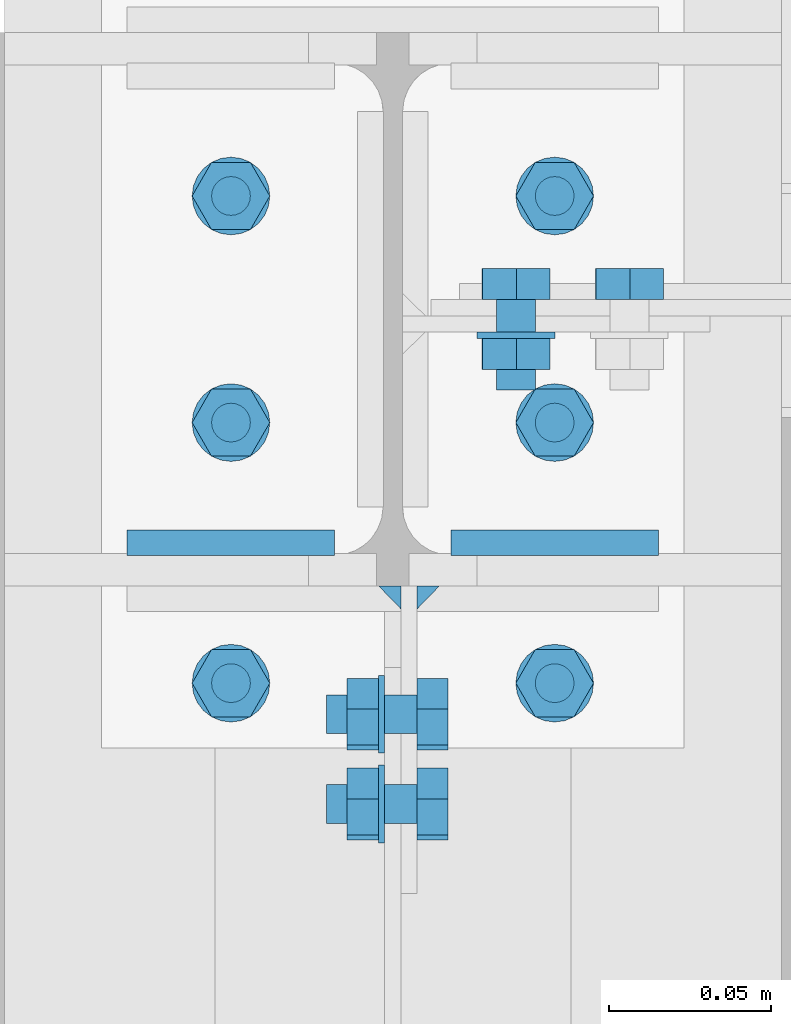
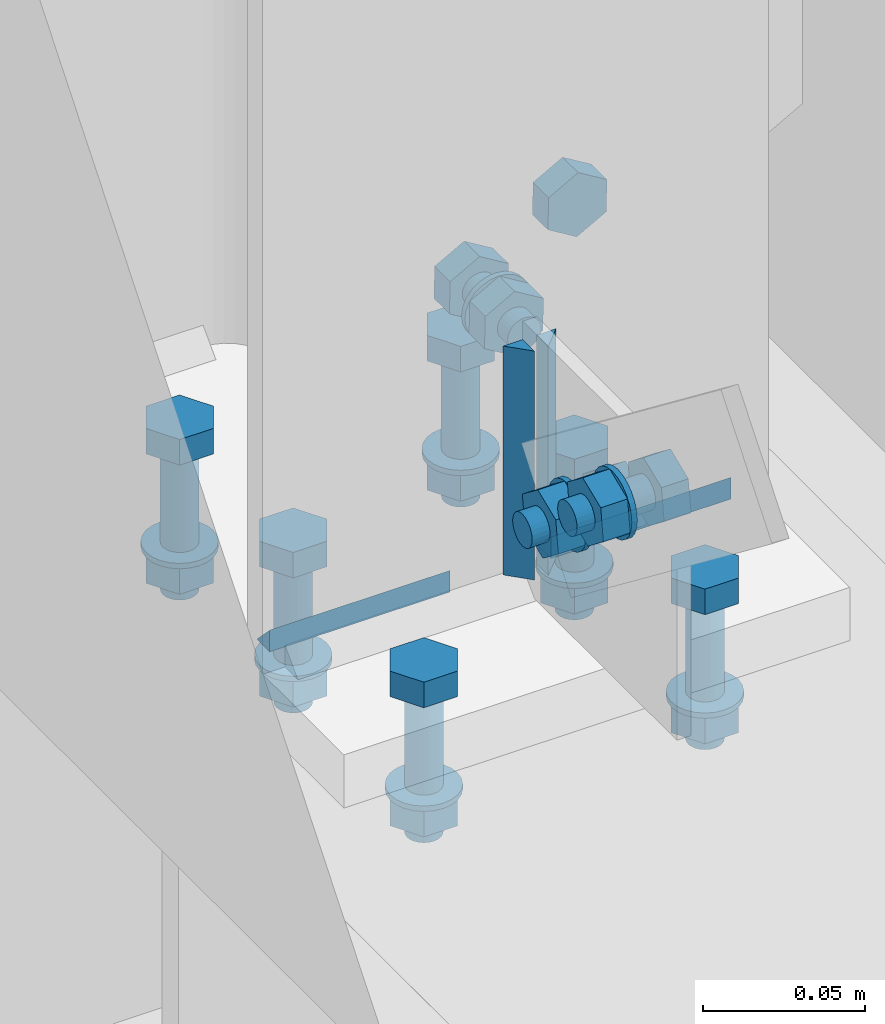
# One storey, part 40 of 66: 37 mechanical fasteners, 6 fasteners.
"""IFC4 building model written with IfcOpenShell, lengths in metres."""

from ifc_helpers import new_model, si_unit, frame, origin_with_axes, place, context, project, spatial, polyline, outline, extrude, type_object, element, save


model = new_model("IFC4")

# Units and contexts
model_context = context("Model", 3, precision=1e-05, world=origin_with_axes())
ifc_project = project(units=[si_unit("LENGTHUNIT", "METRE"), si_unit("AREAUNIT", "SQUARE_METRE"), si_unit("VOLUMEUNIT", "CUBIC_METRE"), si_unit("MASSUNIT", "GRAM", prefix="KILO"), si_unit("TIMEUNIT", "SECOND"), si_unit("PLANEANGLEUNIT", "RADIAN"), si_unit("SOLIDANGLEUNIT", "STERADIAN"), si_unit("THERMODYNAMICTEMPERATUREUNIT", "DEGREE_CELSIUS")], contexts=[model_context])

# Site, building, storey
placement_1 = place(None, origin_with_axes())
site = spatial("IfcSite", under=ifc_project, at=placement_1, Name="Italia", CompositionType="ELEMENT")
building = spatial("IfcBuilding", under=site, at=placement_1, Name="Uffici", CompositionType="ELEMENT")
storey_placement = place(None, frame((0.0, 0.0, 3.299999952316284), z_axis=(0.0, 0.0, 1.0), x_axis=(1.0, 0.0, 0.0)))
storey = spatial("IfcBuildingStorey", under=building, at=storey_placement, Name="Storey 1", CompositionType="ELEMENT", Elevation=3.299999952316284)

# Mechanical fasteners
mechanical_fastener_type_1 = type_object("IfcMechanicalFastenerType", Name="Collegamento 0106_0201", PredefinedType="BOLT")
placement_2 = place(placement_1, origin_with_axes())
mechanical_fastener_1_placement = place(placement_2, origin_with_axes())
element("IfcMechanicalFastener", 1, at=mechanical_fastener_1_placement, inside=storey, type_object=mechanical_fastener_type_1, Name="Collegamento 0106_0201", NominalDiameter=0.0119999, context=model_context, shape_type="SweptSolid", body=[
    extrude(outline(polyline([(0.0, 0.0), (0.00950527, -0.0073247), (0.0206013, -0.00275517), (0.022192, 0.00913882), (0.0126867, 0.0164635), (0.00159073, 0.011894), (0.0, 0.0)])), frame((0.0075, 4.6783, 3.36937), z_axis=(1.0, 0.0, 0.0), x_axis=(0.0, 1.0, 0.0)), (0.0, 0.0, 1.0), 0.0096),
])
mechanical_fastener_type_2 = type_object("IfcMechanicalFastenerType", Name="Collegamento 0106_0201", PredefinedType="BOLT")
mechanical_fastener_2_placement = place(placement_2, origin_with_axes())
element("IfcMechanicalFastener", 2, at=mechanical_fastener_2_placement, inside=storey, type_object=mechanical_fastener_type_2, Name="Collegamento 0106_0201", NominalDiameter=0.012, context=model_context, shape_type="SweptSolid", body=[
    extrude(outline(polyline([(0.0, 0.0), (-0.000204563, -0.00155282), (-0.000803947, -0.00300002), (-0.00175762, -0.00424266), (-0.00300026, -0.00519609), (-0.00444698, -0.00579548), (-0.00600004, -0.00600004), (-0.0075531, -0.00579548), (-0.00899982, -0.00519609), (-0.0102425, -0.00424266), (-0.0111961, -0.00300002), (-0.0117955, -0.00155282), (-0.0120001, 0.0), (-0.0117955, 0.00155282), (-0.0111961, 0.00300002), (-0.0102425, 0.00424266), (-0.00899982, 0.00519609), (-0.0075531, 0.00579548), (-0.00600004, 0.00600004), (-0.00444698, 0.00579548), (-0.00300026, 0.00519609), (-0.00175762, 0.00424266), (-0.000803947, 0.00300002), (-0.000204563, 0.00155282), (0.0, 0.0)])), frame((-0.0205, 4.69539, 3.37394), z_axis=(1.0, 0.0, 0.0), x_axis=(0.0, 1.0, 0.0)), (0.0, 0.0, 1.0), 0.028),
])
mechanical_fastener_type_3 = type_object("IfcMechanicalFastenerType", Name="Collegamento 0106_0201", PredefinedType="BOLT")
mechanical_fastener_3_placement = place(placement_2, origin_with_axes())
element("IfcMechanicalFastener", 3, at=mechanical_fastener_3_placement, inside=storey, type_object=mechanical_fastener_type_3, Name="Collegamento 0106_0201", NominalDiameter=0.0119999, context=model_context, shape_type="SweptSolid", body=[
    extrude(outline(polyline([(0.0, 0.0), (0.00950527, -0.0073247), (0.0206013, -0.00275517), (0.022192, 0.00913882), (0.0126867, 0.0164635), (0.00159073, 0.011894), (0.0, 0.0)])), frame((-0.0141, 4.6783, 3.36937), z_axis=(1.0, 0.0, 0.0), x_axis=(0.0, 1.0, 0.0)), (0.0, 0.0, 1.0), 0.0096),
])
mechanical_fastener_type_4 = type_object("IfcMechanicalFastenerType", Name="Collegamento 0106_0201", PredefinedType="BOLT")
mechanical_fastener_4_placement = place(placement_2, origin_with_axes())
element("IfcMechanicalFastener", 4, at=mechanical_fastener_4_placement, inside=storey, type_object=mechanical_fastener_type_4, Name="Collegamento 0106_0201", NominalDiameter=0.024, context=model_context, shape_type="SweptSolid", body=[
    extrude(outline(polyline([(0.0, 0.0), (-0.000409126, -0.00310588), (-0.00160789, -0.00600004), (-0.00351477, -0.00848532), (-0.00600004, -0.0103922), (-0.00889444, -0.0115912), (-0.0120001, -0.0120001), (-0.0151057, -0.0115912), (-0.0180001, -0.0103922), (-0.0204854, -0.00848532), (-0.0223923, -0.00600004), (-0.023591, -0.00310588), (-0.0240002, 0.0), (-0.023591, 0.00310588), (-0.0223923, 0.00600004), (-0.0204854, 0.00848532), (-0.0180001, 0.0103922), (-0.0151057, 0.0115912), (-0.0120001, 0.0120001), (-0.00889444, 0.0115912), (-0.00600004, 0.0103922), (-0.00351477, 0.00848532), (-0.00160789, 0.00600004), (-0.000409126, 0.00310588), (0.0, 0.0)])), frame((-0.0045, 4.7014, 3.37394), z_axis=(1.0, 0.0, 0.0), x_axis=(0.0, 1.0, 0.0)), (0.0, 0.0, 1.0), 0.002),
])
mechanical_fastener_type_5 = type_object("IfcMechanicalFastenerType", Name="Collegamento 0106_0201", PredefinedType="BOLT")
mechanical_fastener_5_placement = place(placement_2, origin_with_axes())
element("IfcMechanicalFastener", 5, at=mechanical_fastener_5_placement, inside=storey, type_object=mechanical_fastener_type_5, Name="Collegamento 0106_0201", NominalDiameter=0.0119999, context=model_context, shape_type="SweptSolid", body=[
    extrude(outline(polyline([(0.0, 0.0), (0.00950527, -0.0073247), (0.0206013, -0.00275517), (0.022192, 0.00913882), (0.0126867, 0.0164635), (0.00159073, 0.011894), (0.0, 0.0)])), frame((0.0075, 4.65058, 3.39073), z_axis=(1.0, 0.0, 0.0), x_axis=(0.0, 1.0, 0.0)), (0.0, 0.0, 1.0), 0.0096),
])
mechanical_fastener_type_6 = type_object("IfcMechanicalFastenerType", Name="Collegamento 0106_0201", PredefinedType="BOLT")
mechanical_fastener_6_placement = place(placement_2, origin_with_axes())
element("IfcMechanicalFastener", 6, at=mechanical_fastener_6_placement, inside=storey, type_object=mechanical_fastener_type_6, Name="Collegamento 0106_0201", NominalDiameter=0.012, context=model_context, shape_type="SweptSolid", body=[
    extrude(outline(polyline([(0.0, 0.0), (-0.000204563, -0.00155282), (-0.000803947, -0.00300002), (-0.00175762, -0.00424266), (-0.00300026, -0.00519609), (-0.00444698, -0.00579548), (-0.00600004, -0.00600004), (-0.0075531, -0.00579548), (-0.00899982, -0.00519609), (-0.0102425, -0.00424266), (-0.0111961, -0.00300002), (-0.0117955, -0.00155282), (-0.0120001, 0.0), (-0.0117955, 0.00155282), (-0.0111961, 0.00300002), (-0.0102425, 0.00424266), (-0.00899982, 0.00519609), (-0.0075531, 0.00579548), (-0.00600004, 0.00600004), (-0.00444698, 0.00579548), (-0.00300026, 0.00519609), (-0.00175762, 0.00424266), (-0.000803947, 0.00300002), (-0.000204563, 0.00155282), (0.0, 0.0)])), frame((-0.0205, 4.66767, 3.3953), z_axis=(1.0, 0.0, 0.0), x_axis=(0.0, 1.0, 0.0)), (0.0, 0.0, 1.0), 0.028),
])
mechanical_fastener_type_7 = type_object("IfcMechanicalFastenerType", Name="Collegamento 0106_0201", PredefinedType="BOLT")
mechanical_fastener_7_placement = place(placement_2, origin_with_axes())
element("IfcMechanicalFastener", 7, at=mechanical_fastener_7_placement, inside=storey, type_object=mechanical_fastener_type_7, Name="Collegamento 0106_0201", NominalDiameter=0.0119999, context=model_context, shape_type="SweptSolid", body=[
    extrude(outline(polyline([(0.0, 0.0), (0.00950527, -0.0073247), (0.0206013, -0.00275517), (0.022192, 0.00913882), (0.0126867, 0.0164635), (0.00159073, 0.011894), (0.0, 0.0)])), frame((-0.0141, 4.65058, 3.39073), z_axis=(1.0, 0.0, 0.0), x_axis=(0.0, 1.0, 0.0)), (0.0, 0.0, 1.0), 0.0096),
])
mechanical_fastener_type_8 = type_object("IfcMechanicalFastenerType", Name="Collegamento 0106_0201", PredefinedType="BOLT")
mechanical_fastener_8_placement = place(placement_2, origin_with_axes())
element("IfcMechanicalFastener", 8, at=mechanical_fastener_8_placement, inside=storey, type_object=mechanical_fastener_type_8, Name="Collegamento 0106_0201", NominalDiameter=0.024, context=model_context, shape_type="SweptSolid", body=[
    extrude(outline(polyline([(0.0, 0.0), (-0.000409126, -0.00310588), (-0.00160789, -0.00600004), (-0.00351477, -0.00848532), (-0.00600004, -0.0103922), (-0.00889444, -0.0115912), (-0.0120001, -0.0120001), (-0.0151057, -0.0115912), (-0.0180001, -0.0103922), (-0.0204854, -0.00848532), (-0.0223923, -0.00600004), (-0.023591, -0.00310588), (-0.0240002, 0.0), (-0.023591, 0.00310588), (-0.0223923, 0.00600004), (-0.0204854, 0.00848532), (-0.0180001, 0.0103922), (-0.0151057, 0.0115912), (-0.0120001, 0.0120001), (-0.00889444, 0.0115912), (-0.00600004, 0.0103922), (-0.00351477, 0.00848532), (-0.00160789, 0.00600004), (-0.000409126, 0.00310588), (0.0, 0.0)])), frame((-0.0045, 4.67367, 3.3953), z_axis=(1.0, 0.0, 0.0), x_axis=(0.0, 1.0, 0.0)), (0.0, 0.0, 1.0), 0.002),
])

# Fasteners
fastener_type_1 = type_object("IfcFastenerType", Name="Collegamento 0106_0201", PredefinedType="WELD")
fastener_1_placement = place(placement_2, origin_with_axes())
element("IfcFastener", 9, at=fastener_1_placement, inside=storey, type_object=fastener_type_1, Name="Collegamento 0106_0201", context=model_context, shape_type="SweptSolid", body=[
    extrude(outline(polyline([(0.0, 0.0), (-0.00717354, 0.00695816), (0.0, 0.00695816), (0.0, 0.0)])), frame((-0.00440816, 4.72905, 3.41347), z_axis=(0.0, 0.0, -1.0), x_axis=(0.0, 1.0, 0.0)), (0.0, 0.0, 1.0), 0.0861001),
])
fastener_type_2 = type_object("IfcFastenerType", Name="Collegamento 0106_0201", PredefinedType="WELD")
fastener_2_placement = place(placement_2, origin_with_axes())
element("IfcFastener", 10, at=fastener_2_placement, inside=storey, type_object=fastener_type_2, Name="Collegamento 0106_0201", context=model_context, shape_type="SweptSolid", body=[
    extrude(outline(polyline([(0.0, 0.0), (-0.00717354, 0.00695815), (0.0, 0.00695815), (0.0, 0.0)])), frame((0.0144082, 4.72905, 3.32737), z_axis=(0.0, 0.0, 1.0), x_axis=(0.0, 1.0, 0.0)), (0.0, 0.0, 1.0), 0.0861001),
])
fastener_type_3 = type_object("IfcFastenerType", Name="Collegamento 0106_0206", PredefinedType="WELD")
fastener_3_placement = place(placement_2, origin_with_axes())
element("IfcFastener", 11, at=fastener_3_placement, inside=storey, type_object=fastener_type_3, Name="Collegamento 0106_0206", context=model_context, shape_type="SweptSolid", body=[
    extrude(outline(polyline([(0.0, 0.0), (0.00792837, 0.00817347), (0.00792837, 0.0), (0.0, 0.0)])), frame((0.08205, 4.74638, 3.31995), z_axis=(-1.0, 0.0, 0.0), x_axis=(0.0, -1.0, 0.0)), (0.0, 0.0, 1.0), 0.0641),
])
fastener_type_4 = type_object("IfcFastenerType", Name="Collegamento 0106_0206", PredefinedType="WELD")
fastener_4_placement = place(placement_2, origin_with_axes())
element("IfcFastener", 12, at=fastener_4_placement, inside=storey, type_object=fastener_type_4, Name="Collegamento 0106_0206", context=model_context, shape_type="SweptSolid", body=[
    extrude(outline(polyline([(0.0, 0.0), (0.00792837, 0.00817347), (0.00792837, 0.0), (0.0, 0.0)])), frame((-0.01795, 4.74638, 3.31995), z_axis=(-1.0, 0.0, 0.0), x_axis=(0.0, -1.0, 0.0)), (0.0, 0.0, 1.0), 0.0641),
])
fastener_type_5 = type_object("IfcFastenerType", Name="Collegamento 0106_0206", PredefinedType="WELD")
fastener_5_placement = place(placement_2, origin_with_axes())
element("IfcFastener", 13, at=fastener_5_placement, inside=storey, type_object=fastener_type_5, Name="Collegamento 0106_0206", context=model_context, shape_type="SweptSolid", body=[
    extrude(outline(polyline([(0.0, 0.0), (0.00792837, 0.00817347), (0.00792837, 0.0), (0.0, 0.0)])), frame((0.08205, 4.74638, 3.31995), z_axis=(-1.0, 0.0, 0.0), x_axis=(0.0, -1.0, 0.0)), (0.0, 0.0, 1.0), 0.0641),
])
fastener_type_6 = type_object("IfcFastenerType", Name="Collegamento 0106_0206", PredefinedType="WELD")
fastener_6_placement = place(placement_2, origin_with_axes())
element("IfcFastener", 14, at=fastener_6_placement, inside=storey, type_object=fastener_type_6, Name="Collegamento 0106_0206", context=model_context, shape_type="SweptSolid", body=[
    extrude(outline(polyline([(0.0, 0.0), (0.00792837, 0.00817347), (0.00792837, 0.0), (0.0, 0.0)])), frame((-0.01795, 4.74638, 3.31995), z_axis=(-1.0, 0.0, 0.0), x_axis=(0.0, -1.0, 0.0)), (0.0, 0.0, 1.0), 0.0641),
])

# Mechanical fasteners
mechanical_fastener_type_9 = type_object("IfcMechanicalFastenerType", Name="Collegamento 0106_0206", PredefinedType="BOLT")
mechanical_fastener_9_placement = place(placement_2, origin_with_axes())
element("IfcMechanicalFastener", 15, at=mechanical_fastener_9_placement, inside=storey, type_object=mechanical_fastener_type_9, Name="Collegamento 0106_0206", NominalDiameter=0.0119999, context=model_context, shape_type="SweptSolid", body=[
    extrude(outline(polyline([(0.0, 0.0), (0.0, 0.012), (0.0103927, 0.018), (0.0207849, 0.012), (0.0207849, 0.0), (0.0103927, -0.006), (0.0, 0.0)])), frame((-0.044, 4.76911, 3.32), z_axis=(0.0, 0.0, 1.0), x_axis=(0.0, 1.0, 0.0)), (0.0, 0.0, 1.0), 0.00959992),
])
mechanical_fastener_type_10 = type_object("IfcMechanicalFastenerType", Name="Collegamento 0106_0206", PredefinedType="BOLT")
mechanical_fastener_10_placement = place(placement_2, origin_with_axes())
element("IfcMechanicalFastener", 16, at=mechanical_fastener_10_placement, inside=storey, type_object=mechanical_fastener_type_10, Name="Collegamento 0106_0206", NominalDiameter=0.012, context=model_context, shape_type="SweptSolid", body=[
    extrude(outline(polyline([(0.0, 0.0), (-0.000204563, -0.00155291), (-0.000803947, -0.003), (-0.00175762, -0.00424264), (-0.00300026, -0.00519615), (-0.00444698, -0.00579556), (-0.00600004, -0.006), (-0.0075531, -0.00579555), (-0.00899982, -0.00519615), (-0.0102425, -0.00424264), (-0.0111961, -0.003), (-0.0117955, -0.00155291), (-0.0120001, 0.0), (-0.0117955, 0.00155291), (-0.0111961, 0.003), (-0.0102425, 0.00424264), (-0.00899982, 0.00519615), (-0.0075531, 0.00579556), (-0.00600004, 0.006), (-0.00444698, 0.00579556), (-0.00300026, 0.00519615), (-0.00175762, 0.00424264), (-0.000803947, 0.003), (-0.000204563, 0.00155291), (0.0, 0.0)])), frame((-0.05, 4.7855, 3.265), z_axis=(0.0, 0.0, 1.0), x_axis=(0.0, 1.0, 0.0)), (0.0, 0.0, 1.0), 0.0550001),
])
mechanical_fastener_type_11 = type_object("IfcMechanicalFastenerType", Name="Collegamento 0106_0206", PredefinedType="BOLT")
mechanical_fastener_11_placement = place(placement_2, origin_with_axes())
element("IfcMechanicalFastener", 17, at=mechanical_fastener_11_placement, inside=storey, type_object=mechanical_fastener_type_11, Name="Collegamento 0106_0206", NominalDiameter=0.0119999, context=model_context, shape_type="SweptSolid", body=[
    extrude(outline(polyline([(0.0, 0.0), (0.0, 0.012), (0.0103927, 0.018), (0.0207849, 0.012), (0.0207849, 0.0), (0.0103927, -0.006), (0.0, 0.0)])), frame((-0.044, 4.76911, 3.2714), z_axis=(0.0, 0.0, 1.0), x_axis=(0.0, 1.0, 0.0)), (0.0, 0.0, 1.0), 0.00959992),
])
mechanical_fastener_type_12 = type_object("IfcMechanicalFastenerType", Name="Collegamento 0106_0206", PredefinedType="BOLT")
mechanical_fastener_12_placement = place(placement_2, origin_with_axes())
element("IfcMechanicalFastener", 18, at=mechanical_fastener_12_placement, inside=storey, type_object=mechanical_fastener_type_12, Name="Collegamento 0106_0206", NominalDiameter=0.024, context=model_context, shape_type="SweptSolid", body=[
    extrude(outline(polyline([(0.0, 0.0), (-0.000409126, -0.00310583), (-0.00160789, -0.006), (-0.00351477, -0.00848528), (-0.00600004, -0.0103923), (-0.00889444, -0.0115911), (-0.0120001, -0.012), (-0.0151057, -0.0115911), (-0.0180001, -0.0103923), (-0.0204854, -0.00848528), (-0.0223923, -0.006), (-0.023591, -0.00310583), (-0.0240002, 0.0), (-0.023591, 0.00310583), (-0.0223923, 0.006), (-0.0204854, 0.00848528), (-0.0180001, 0.0103923), (-0.0151057, 0.0115911), (-0.0120001, 0.012), (-0.00889444, 0.0115911), (-0.00600004, 0.0103923), (-0.00351477, 0.00848528), (-0.00160789, 0.006), (-0.000409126, 0.00310583), (0.0, 0.0)])), frame((-0.05, 4.7915, 3.281), z_axis=(0.0, 0.0, 1.0), x_axis=(0.0, 1.0, 0.0)), (0.0, 0.0, 1.0), 0.00200009),
])
mechanical_fastener_type_13 = type_object("IfcMechanicalFastenerType", Name="Collegamento 0106_0206", PredefinedType="BOLT")
mechanical_fastener_13_placement = place(placement_2, origin_with_axes())
element("IfcMechanicalFastener", 19, at=mechanical_fastener_13_placement, inside=storey, type_object=mechanical_fastener_type_13, Name="Collegamento 0106_0206", NominalDiameter=0.0119999, context=model_context, shape_type="SweptSolid", body=[
    extrude(outline(polyline([(0.0, 0.0), (0.0, 0.012), (0.0103927, 0.018), (0.0207849, 0.012), (0.0207849, 0.0), (0.0103927, -0.006), (0.0, 0.0)])), frame((0.056, 4.76911, 3.32), z_axis=(0.0, 0.0, 1.0), x_axis=(0.0, 1.0, 0.0)), (0.0, 0.0, 1.0), 0.00959992),
])
mechanical_fastener_type_14 = type_object("IfcMechanicalFastenerType", Name="Collegamento 0106_0206", PredefinedType="BOLT")
mechanical_fastener_14_placement = place(placement_2, origin_with_axes())
element("IfcMechanicalFastener", 20, at=mechanical_fastener_14_placement, inside=storey, type_object=mechanical_fastener_type_14, Name="Collegamento 0106_0206", NominalDiameter=0.012, context=model_context, shape_type="SweptSolid", body=[
    extrude(outline(polyline([(0.0, 0.0), (-0.000204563, -0.00155291), (-0.000803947, -0.003), (-0.00175762, -0.00424264), (-0.00300026, -0.00519615), (-0.00444698, -0.00579556), (-0.00600004, -0.006), (-0.0075531, -0.00579555), (-0.00899982, -0.00519615), (-0.0102425, -0.00424264), (-0.0111961, -0.003), (-0.0117955, -0.00155291), (-0.0120001, 0.0), (-0.0117955, 0.00155291), (-0.0111961, 0.003), (-0.0102425, 0.00424264), (-0.00899982, 0.00519615), (-0.0075531, 0.00579556), (-0.00600004, 0.006), (-0.00444698, 0.00579556), (-0.00300026, 0.00519615), (-0.00175762, 0.00424264), (-0.000803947, 0.003), (-0.000204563, 0.00155291), (0.0, 0.0)])), frame((0.05, 4.7855, 3.265), z_axis=(0.0, 0.0, 1.0), x_axis=(0.0, 1.0, 0.0)), (0.0, 0.0, 1.0), 0.0550001),
])
mechanical_fastener_type_15 = type_object("IfcMechanicalFastenerType", Name="Collegamento 0106_0206", PredefinedType="BOLT")
mechanical_fastener_15_placement = place(placement_2, origin_with_axes())
element("IfcMechanicalFastener", 21, at=mechanical_fastener_15_placement, inside=storey, type_object=mechanical_fastener_type_15, Name="Collegamento 0106_0206", NominalDiameter=0.0119999, context=model_context, shape_type="SweptSolid", body=[
    extrude(outline(polyline([(0.0, 0.0), (0.0, 0.012), (0.0103927, 0.018), (0.0207849, 0.012), (0.0207849, 0.0), (0.0103927, -0.006), (0.0, 0.0)])), frame((0.056, 4.76911, 3.2714), z_axis=(0.0, 0.0, 1.0), x_axis=(0.0, 1.0, 0.0)), (0.0, 0.0, 1.0), 0.00959992),
])
mechanical_fastener_type_16 = type_object("IfcMechanicalFastenerType", Name="Collegamento 0106_0206", PredefinedType="BOLT")
mechanical_fastener_16_placement = place(placement_2, origin_with_axes())
element("IfcMechanicalFastener", 22, at=mechanical_fastener_16_placement, inside=storey, type_object=mechanical_fastener_type_16, Name="Collegamento 0106_0206", NominalDiameter=0.024, context=model_context, shape_type="SweptSolid", body=[
    extrude(outline(polyline([(0.0, 0.0), (-0.000409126, -0.00310583), (-0.00160789, -0.006), (-0.00351477, -0.00848528), (-0.00600004, -0.0103923), (-0.00889444, -0.0115911), (-0.0120001, -0.012), (-0.0151057, -0.0115911), (-0.0180001, -0.0103923), (-0.0204854, -0.00848528), (-0.0223923, -0.006), (-0.023591, -0.00310583), (-0.0240002, 0.0), (-0.023591, 0.00310583), (-0.0223923, 0.006), (-0.0204854, 0.00848528), (-0.0180001, 0.0103923), (-0.0151057, 0.0115911), (-0.0120001, 0.012), (-0.00889444, 0.0115911), (-0.00600004, 0.0103923), (-0.00351477, 0.00848528), (-0.00160789, 0.006), (-0.000409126, 0.00310583), (0.0, 0.0)])), frame((0.05, 4.7915, 3.281), z_axis=(0.0, 0.0, 1.0), x_axis=(0.0, 1.0, 0.0)), (0.0, 0.0, 1.0), 0.00200009),
])
mechanical_fastener_type_17 = type_object("IfcMechanicalFastenerType", Name="Collegamento 0106_0206", PredefinedType="BOLT")
mechanical_fastener_17_placement = place(placement_2, origin_with_axes())
element("IfcMechanicalFastener", 23, at=mechanical_fastener_17_placement, inside=storey, type_object=mechanical_fastener_type_17, Name="Collegamento 0106_0206", NominalDiameter=0.0119999, context=model_context, shape_type="SweptSolid", body=[
    extrude(outline(polyline([(0.0, 0.0), (0.0, 0.012), (0.0103922, 0.018), (0.0207849, 0.012), (0.0207849, 0.0), (0.0103922, -0.006), (0.0, 0.0)])), frame((-0.044, 4.83911, 3.32), z_axis=(0.0, 0.0, 1.0), x_axis=(0.0, 1.0, 0.0)), (0.0, 0.0, 1.0), 0.00959992),
])
mechanical_fastener_type_18 = type_object("IfcMechanicalFastenerType", Name="Collegamento 0106_0206", PredefinedType="BOLT")
mechanical_fastener_18_placement = place(placement_2, origin_with_axes())
element("IfcMechanicalFastener", 24, at=mechanical_fastener_18_placement, inside=storey, type_object=mechanical_fastener_type_18, Name="Collegamento 0106_0206", NominalDiameter=0.012, context=model_context, shape_type="SweptSolid", body=[
    extrude(outline(polyline([(0.0, 0.0), (-0.000204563, -0.00155291), (-0.000803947, -0.003), (-0.00175762, -0.00424264), (-0.00300026, -0.00519615), (-0.00444698, -0.00579556), (-0.00600004, -0.006), (-0.0075531, -0.00579555), (-0.00899982, -0.00519615), (-0.0102425, -0.00424264), (-0.0111961, -0.003), (-0.0117955, -0.00155291), (-0.0120001, 0.0), (-0.0117955, 0.00155291), (-0.0111961, 0.003), (-0.0102425, 0.00424264), (-0.00899982, 0.00519615), (-0.0075531, 0.00579556), (-0.00600004, 0.006), (-0.00444698, 0.00579556), (-0.00300026, 0.00519615), (-0.00175762, 0.00424264), (-0.000803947, 0.003), (-0.000204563, 0.00155291), (0.0, 0.0)])), frame((-0.05, 4.8555, 3.265), z_axis=(0.0, 0.0, 1.0), x_axis=(0.0, 1.0, 0.0)), (0.0, 0.0, 1.0), 0.0550001),
])
mechanical_fastener_type_19 = type_object("IfcMechanicalFastenerType", Name="Collegamento 0106_0206", PredefinedType="BOLT")
mechanical_fastener_19_placement = place(placement_2, origin_with_axes())
element("IfcMechanicalFastener", 25, at=mechanical_fastener_19_placement, inside=storey, type_object=mechanical_fastener_type_19, Name="Collegamento 0106_0206", NominalDiameter=0.0119999, context=model_context, shape_type="SweptSolid", body=[
    extrude(outline(polyline([(0.0, 0.0), (0.0, 0.012), (0.0103922, 0.018), (0.0207849, 0.012), (0.0207849, 0.0), (0.0103922, -0.006), (0.0, 0.0)])), frame((-0.044, 4.83911, 3.2714), z_axis=(0.0, 0.0, 1.0), x_axis=(0.0, 1.0, 0.0)), (0.0, 0.0, 1.0), 0.00959992),
])
mechanical_fastener_type_20 = type_object("IfcMechanicalFastenerType", Name="Collegamento 0106_0206", PredefinedType="BOLT")
mechanical_fastener_20_placement = place(placement_2, origin_with_axes())
element("IfcMechanicalFastener", 26, at=mechanical_fastener_20_placement, inside=storey, type_object=mechanical_fastener_type_20, Name="Collegamento 0106_0206", NominalDiameter=0.024, context=model_context, shape_type="SweptSolid", body=[
    extrude(outline(polyline([(0.0, 0.0), (-0.000409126, -0.00310583), (-0.00160789, -0.006), (-0.00351477, -0.00848528), (-0.00600004, -0.0103923), (-0.00889444, -0.0115911), (-0.0120001, -0.012), (-0.0151057, -0.0115911), (-0.0180001, -0.0103923), (-0.0204854, -0.00848528), (-0.0223923, -0.006), (-0.023591, -0.00310583), (-0.0240002, 0.0), (-0.023591, 0.00310583), (-0.0223923, 0.006), (-0.0204854, 0.00848528), (-0.0180001, 0.0103923), (-0.0151057, 0.0115911), (-0.0120001, 0.012), (-0.00889444, 0.0115911), (-0.00600004, 0.0103923), (-0.00351477, 0.00848528), (-0.00160789, 0.006), (-0.000409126, 0.00310583), (0.0, 0.0)])), frame((-0.05, 4.8615, 3.281), z_axis=(0.0, 0.0, 1.0), x_axis=(0.0, 1.0, 0.0)), (0.0, 0.0, 1.0), 0.00200009),
])
mechanical_fastener_type_21 = type_object("IfcMechanicalFastenerType", Name="Collegamento 0106_0206", PredefinedType="BOLT")
mechanical_fastener_21_placement = place(placement_2, origin_with_axes())
element("IfcMechanicalFastener", 27, at=mechanical_fastener_21_placement, inside=storey, type_object=mechanical_fastener_type_21, Name="Collegamento 0106_0206", NominalDiameter=0.0119999, context=model_context, shape_type="SweptSolid", body=[
    extrude(outline(polyline([(0.0, 0.0), (0.0, 0.012), (0.0103922, 0.018), (0.0207849, 0.012), (0.0207849, 0.0), (0.0103922, -0.006), (0.0, 0.0)])), frame((0.056, 4.83911, 3.32), z_axis=(0.0, 0.0, 1.0), x_axis=(0.0, 1.0, 0.0)), (0.0, 0.0, 1.0), 0.00959992),
])
mechanical_fastener_type_22 = type_object("IfcMechanicalFastenerType", Name="Collegamento 0106_0206", PredefinedType="BOLT")
mechanical_fastener_22_placement = place(placement_2, origin_with_axes())
element("IfcMechanicalFastener", 28, at=mechanical_fastener_22_placement, inside=storey, type_object=mechanical_fastener_type_22, Name="Collegamento 0106_0206", NominalDiameter=0.012, context=model_context, shape_type="SweptSolid", body=[
    extrude(outline(polyline([(0.0, 0.0), (-0.000204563, -0.00155291), (-0.000803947, -0.003), (-0.00175762, -0.00424264), (-0.00300026, -0.00519615), (-0.00444698, -0.00579556), (-0.00600004, -0.006), (-0.0075531, -0.00579555), (-0.00899982, -0.00519615), (-0.0102425, -0.00424264), (-0.0111961, -0.003), (-0.0117955, -0.00155291), (-0.0120001, 0.0), (-0.0117955, 0.00155291), (-0.0111961, 0.003), (-0.0102425, 0.00424264), (-0.00899982, 0.00519615), (-0.0075531, 0.00579556), (-0.00600004, 0.006), (-0.00444698, 0.00579556), (-0.00300026, 0.00519615), (-0.00175762, 0.00424264), (-0.000803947, 0.003), (-0.000204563, 0.00155291), (0.0, 0.0)])), frame((0.05, 4.8555, 3.265), z_axis=(0.0, 0.0, 1.0), x_axis=(0.0, 1.0, 0.0)), (0.0, 0.0, 1.0), 0.0550001),
])
mechanical_fastener_type_23 = type_object("IfcMechanicalFastenerType", Name="Collegamento 0106_0206", PredefinedType="BOLT")
mechanical_fastener_23_placement = place(placement_2, origin_with_axes())
element("IfcMechanicalFastener", 29, at=mechanical_fastener_23_placement, inside=storey, type_object=mechanical_fastener_type_23, Name="Collegamento 0106_0206", NominalDiameter=0.0119999, context=model_context, shape_type="SweptSolid", body=[
    extrude(outline(polyline([(0.0, 0.0), (0.0, 0.012), (0.0103922, 0.018), (0.0207849, 0.012), (0.0207849, 0.0), (0.0103922, -0.006), (0.0, 0.0)])), frame((0.056, 4.83911, 3.2714), z_axis=(0.0, 0.0, 1.0), x_axis=(0.0, 1.0, 0.0)), (0.0, 0.0, 1.0), 0.00959992),
])
mechanical_fastener_type_24 = type_object("IfcMechanicalFastenerType", Name="Collegamento 0106_0206", PredefinedType="BOLT")
mechanical_fastener_24_placement = place(placement_2, origin_with_axes())
element("IfcMechanicalFastener", 30, at=mechanical_fastener_24_placement, inside=storey, type_object=mechanical_fastener_type_24, Name="Collegamento 0106_0206", NominalDiameter=0.024, context=model_context, shape_type="SweptSolid", body=[
    extrude(outline(polyline([(0.0, 0.0), (-0.000409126, -0.00310583), (-0.00160789, -0.006), (-0.00351477, -0.00848528), (-0.00600004, -0.0103923), (-0.00889444, -0.0115911), (-0.0120001, -0.012), (-0.0151057, -0.0115911), (-0.0180001, -0.0103923), (-0.0204854, -0.00848528), (-0.0223923, -0.006), (-0.023591, -0.00310583), (-0.0240002, 0.0), (-0.023591, 0.00310583), (-0.0223923, 0.006), (-0.0204854, 0.00848528), (-0.0180001, 0.0103923), (-0.0151057, 0.0115911), (-0.0120001, 0.012), (-0.00889444, 0.0115911), (-0.00600004, 0.0103923), (-0.00351477, 0.00848528), (-0.00160789, 0.006), (-0.000409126, 0.00310583), (0.0, 0.0)])), frame((0.05, 4.8615, 3.281), z_axis=(0.0, 0.0, 1.0), x_axis=(0.0, 1.0, 0.0)), (0.0, 0.0, 1.0), 0.00200009),
])
mechanical_fastener_type_25 = type_object("IfcMechanicalFastenerType", Name="Collegamento 0106_0206", PredefinedType="BOLT")
mechanical_fastener_25_placement = place(placement_2, origin_with_axes())
element("IfcMechanicalFastener", 31, at=mechanical_fastener_25_placement, inside=storey, type_object=mechanical_fastener_type_25, Name="Collegamento 0106_0206", NominalDiameter=0.0119999, context=model_context, shape_type="SweptSolid", body=[
    extrude(outline(polyline([(0.0, 0.0), (0.0, 0.012), (0.0103922, 0.018), (0.0207844, 0.012), (0.0207844, 0.0), (0.0103922, -0.006), (0.0, 0.0)])), frame((-0.044, 4.68861, 3.32), z_axis=(0.0, 0.0, 1.0), x_axis=(0.0, 1.0, 0.0)), (0.0, 0.0, 1.0), 0.00959992),
])
mechanical_fastener_type_26 = type_object("IfcMechanicalFastenerType", Name="Collegamento 0106_0206", PredefinedType="BOLT")
mechanical_fastener_26_placement = place(placement_2, origin_with_axes())
element("IfcMechanicalFastener", 32, at=mechanical_fastener_26_placement, inside=storey, type_object=mechanical_fastener_type_26, Name="Collegamento 0106_0206", NominalDiameter=0.012, context=model_context, shape_type="SweptSolid", body=[
    extrude(outline(polyline([(0.0, 0.0), (-0.000204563, -0.00155291), (-0.000803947, -0.003), (-0.00175762, -0.00424264), (-0.00300026, -0.00519615), (-0.00444698, -0.00579556), (-0.00600004, -0.006), (-0.0075531, -0.00579555), (-0.00899982, -0.00519615), (-0.0102425, -0.00424264), (-0.0111961, -0.003), (-0.0117955, -0.00155291), (-0.0120001, 0.0), (-0.0117955, 0.00155291), (-0.0111961, 0.003), (-0.0102425, 0.00424264), (-0.00899982, 0.00519615), (-0.0075531, 0.00579556), (-0.00600004, 0.006), (-0.00444698, 0.00579556), (-0.00300026, 0.00519615), (-0.00175762, 0.00424264), (-0.000803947, 0.003), (-0.000204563, 0.00155291), (0.0, 0.0)])), frame((-0.05, 4.705, 3.265), z_axis=(0.0, 0.0, 1.0), x_axis=(0.0, 1.0, 0.0)), (0.0, 0.0, 1.0), 0.0550001),
])
mechanical_fastener_type_27 = type_object("IfcMechanicalFastenerType", Name="Collegamento 0106_0206", PredefinedType="BOLT")
mechanical_fastener_27_placement = place(placement_2, origin_with_axes())
element("IfcMechanicalFastener", 33, at=mechanical_fastener_27_placement, inside=storey, type_object=mechanical_fastener_type_27, Name="Collegamento 0106_0206", NominalDiameter=0.0119999, context=model_context, shape_type="SweptSolid", body=[
    extrude(outline(polyline([(0.0, 0.0), (0.0, 0.012), (0.0103922, 0.018), (0.0207844, 0.012), (0.0207844, 0.0), (0.0103922, -0.006), (0.0, 0.0)])), frame((-0.044, 4.68861, 3.2714), z_axis=(0.0, 0.0, 1.0), x_axis=(0.0, 1.0, 0.0)), (0.0, 0.0, 1.0), 0.00959992),
])
mechanical_fastener_type_28 = type_object("IfcMechanicalFastenerType", Name="Collegamento 0106_0206", PredefinedType="BOLT")
mechanical_fastener_28_placement = place(placement_2, origin_with_axes())
element("IfcMechanicalFastener", 34, at=mechanical_fastener_28_placement, inside=storey, type_object=mechanical_fastener_type_28, Name="Collegamento 0106_0206", NominalDiameter=0.024, context=model_context, shape_type="SweptSolid", body=[
    extrude(outline(polyline([(0.0, 0.0), (-0.000409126, -0.00310583), (-0.00160789, -0.006), (-0.00351477, -0.00848528), (-0.00600004, -0.0103923), (-0.00889444, -0.0115911), (-0.0120001, -0.012), (-0.0151057, -0.0115911), (-0.0180001, -0.0103923), (-0.0204854, -0.00848528), (-0.0223923, -0.006), (-0.023591, -0.00310583), (-0.0240002, 0.0), (-0.023591, 0.00310583), (-0.0223923, 0.006), (-0.0204854, 0.00848528), (-0.0180001, 0.0103923), (-0.0151057, 0.0115911), (-0.0120001, 0.012), (-0.00889444, 0.0115911), (-0.00600004, 0.0103923), (-0.00351477, 0.00848528), (-0.00160789, 0.006), (-0.000409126, 0.00310583), (0.0, 0.0)])), frame((-0.05, 4.711, 3.281), z_axis=(0.0, 0.0, 1.0), x_axis=(0.0, 1.0, 0.0)), (0.0, 0.0, 1.0), 0.00200009),
])
mechanical_fastener_type_29 = type_object("IfcMechanicalFastenerType", Name="Collegamento 0106_0206", PredefinedType="BOLT")
mechanical_fastener_29_placement = place(placement_2, origin_with_axes())
element("IfcMechanicalFastener", 35, at=mechanical_fastener_29_placement, inside=storey, type_object=mechanical_fastener_type_29, Name="Collegamento 0106_0206", NominalDiameter=0.0119999, context=model_context, shape_type="SweptSolid", body=[
    extrude(outline(polyline([(0.0, 0.0), (0.0, 0.012), (0.0103922, 0.018), (0.0207844, 0.012), (0.0207844, 0.0), (0.0103922, -0.006), (0.0, 0.0)])), frame((0.056, 4.68861, 3.32), z_axis=(0.0, 0.0, 1.0), x_axis=(0.0, 1.0, 0.0)), (0.0, 0.0, 1.0), 0.00959992),
])
mechanical_fastener_type_30 = type_object("IfcMechanicalFastenerType", Name="Collegamento 0106_0206", PredefinedType="BOLT")
mechanical_fastener_30_placement = place(placement_2, origin_with_axes())
element("IfcMechanicalFastener", 36, at=mechanical_fastener_30_placement, inside=storey, type_object=mechanical_fastener_type_30, Name="Collegamento 0106_0206", NominalDiameter=0.012, context=model_context, shape_type="SweptSolid", body=[
    extrude(outline(polyline([(0.0, 0.0), (-0.000204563, -0.00155291), (-0.000803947, -0.003), (-0.00175762, -0.00424264), (-0.00300026, -0.00519615), (-0.00444698, -0.00579556), (-0.00600004, -0.006), (-0.0075531, -0.00579555), (-0.00899982, -0.00519615), (-0.0102425, -0.00424264), (-0.0111961, -0.003), (-0.0117955, -0.00155291), (-0.0120001, 0.0), (-0.0117955, 0.00155291), (-0.0111961, 0.003), (-0.0102425, 0.00424264), (-0.00899982, 0.00519615), (-0.0075531, 0.00579556), (-0.00600004, 0.006), (-0.00444698, 0.00579556), (-0.00300026, 0.00519615), (-0.00175762, 0.00424264), (-0.000803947, 0.003), (-0.000204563, 0.00155291), (0.0, 0.0)])), frame((0.05, 4.705, 3.265), z_axis=(0.0, 0.0, 1.0), x_axis=(0.0, 1.0, 0.0)), (0.0, 0.0, 1.0), 0.0550001),
])
mechanical_fastener_type_31 = type_object("IfcMechanicalFastenerType", Name="Collegamento 0106_0206", PredefinedType="BOLT")
mechanical_fastener_31_placement = place(placement_2, origin_with_axes())
element("IfcMechanicalFastener", 37, at=mechanical_fastener_31_placement, inside=storey, type_object=mechanical_fastener_type_31, Name="Collegamento 0106_0206", NominalDiameter=0.0119999, context=model_context, shape_type="SweptSolid", body=[
    extrude(outline(polyline([(0.0, 0.0), (0.0, 0.012), (0.0103922, 0.018), (0.0207844, 0.012), (0.0207844, 0.0), (0.0103922, -0.006), (0.0, 0.0)])), frame((0.056, 4.68861, 3.2714), z_axis=(0.0, 0.0, 1.0), x_axis=(0.0, 1.0, 0.0)), (0.0, 0.0, 1.0), 0.00959992),
])
mechanical_fastener_type_32 = type_object("IfcMechanicalFastenerType", Name="Collegamento 0106_0206", PredefinedType="BOLT")
mechanical_fastener_32_placement = place(placement_2, origin_with_axes())
element("IfcMechanicalFastener", 38, at=mechanical_fastener_32_placement, inside=storey, type_object=mechanical_fastener_type_32, Name="Collegamento 0106_0206", NominalDiameter=0.024, context=model_context, shape_type="SweptSolid", body=[
    extrude(outline(polyline([(0.0, 0.0), (-0.000409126, -0.00310583), (-0.00160789, -0.006), (-0.00351477, -0.00848528), (-0.00600004, -0.0103923), (-0.00889444, -0.0115911), (-0.0120001, -0.012), (-0.0151057, -0.0115911), (-0.0180001, -0.0103923), (-0.0204854, -0.00848528), (-0.0223923, -0.006), (-0.023591, -0.00310583), (-0.0240002, 0.0), (-0.023591, 0.00310583), (-0.0223923, 0.006), (-0.0204854, 0.00848528), (-0.0180001, 0.0103923), (-0.0151057, 0.0115911), (-0.0120001, 0.012), (-0.00889444, 0.0115911), (-0.00600004, 0.0103923), (-0.00351477, 0.00848528), (-0.00160789, 0.006), (-0.000409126, 0.00310583), (0.0, 0.0)])), frame((0.05, 4.711, 3.281), z_axis=(0.0, 0.0, 1.0), x_axis=(0.0, 1.0, 0.0)), (0.0, 0.0, 1.0), 0.00200009),
])
mechanical_fastener_type_33 = type_object("IfcMechanicalFastenerType", Name="Collegamento 0106_0207", PredefinedType="BOLT")
mechanical_fastener_33_placement = place(placement_2, origin_with_axes())
element("IfcMechanicalFastener", 39, at=mechanical_fastener_33_placement, inside=storey, type_object=mechanical_fastener_type_33, Name="Collegamento 0106_0207", NominalDiameter=0.012, context=model_context, shape_type="SweptSolid", body=[
    extrude(outline(polyline([(0.0, 0.0), (0.0105101, -0.00579119), (0.0207805, 0.000415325), (0.0205407, 0.012413), (0.0100306, 0.0182042), (-0.000239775, 0.0119977), (0.0, 0.0)])), frame((0.048304, 4.8175, 3.36033), z_axis=(0.0, 1.0, 0.0), x_axis=(-1.0, 0.0, 0.0)), (0.0, 0.0, 1.0), 0.00960016),
])
mechanical_fastener_type_34 = type_object("IfcMechanicalFastenerType", Name="Collegamento 0106_0207", PredefinedType="BOLT")
mechanical_fastener_34_placement = place(placement_2, origin_with_axes())
element("IfcMechanicalFastener", 40, at=mechanical_fastener_34_placement, inside=storey, type_object=mechanical_fastener_type_34, Name="Collegamento 0106_0207", NominalDiameter=0.012, context=model_context, shape_type="SweptSolid", body=[
    extrude(outline(polyline([(0.0, 0.0), (-0.000204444, -0.00155282), (-0.000803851, -0.00300002), (-0.00175736, -0.00424266), (-0.003, -0.00519609), (-0.00444709, -0.00579548), (-0.006, -0.00600004), (-0.00755291, -0.00579548), (-0.009, -0.00519609), (-0.0102426, -0.00424266), (-0.0111962, -0.00300002), (-0.0117956, -0.00155282), (-0.012, 0.0), (-0.0117956, 0.00155282), (-0.0111962, 0.00300002), (-0.0102426, 0.00424266), (-0.009, 0.00519609), (-0.00755291, 0.00579548), (-0.006, 0.00600004), (-0.00444709, 0.00579548), (-0.003, 0.00519609), (-0.00175736, 0.00424266), (-0.000803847, 0.00300002), (-0.000204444, 0.00155282), (0.0, 0.0)])), frame((0.0320336, 4.7895, 3.36654), z_axis=(0.0, 1.0, 0.0), x_axis=(-1.0, 0.0, 0.0)), (0.0, 0.0, 1.0), 0.0279999),
])
mechanical_fastener_type_35 = type_object("IfcMechanicalFastenerType", Name="Collegamento 0106_0207", PredefinedType="BOLT")
mechanical_fastener_35_placement = place(placement_2, origin_with_axes())
element("IfcMechanicalFastener", 41, at=mechanical_fastener_35_placement, inside=storey, type_object=mechanical_fastener_type_35, Name="Collegamento 0106_0207", NominalDiameter=0.012, context=model_context, shape_type="SweptSolid", body=[
    extrude(outline(polyline([(0.0, 0.0), (0.0105101, -0.00579119), (0.0207805, 0.000415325), (0.0205407, 0.012413), (0.0100306, 0.0182042), (-0.000239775, 0.0119977), (0.0, 0.0)])), frame((0.048304, 4.7959, 3.36033), z_axis=(0.0, 1.0, 0.0), x_axis=(-1.0, 0.0, 0.0)), (0.0, 0.0, 1.0), 0.00960016),
])
mechanical_fastener_type_36 = type_object("IfcMechanicalFastenerType", Name="Collegamento 0106_0207", PredefinedType="BOLT")
mechanical_fastener_36_placement = place(placement_2, origin_with_axes())
element("IfcMechanicalFastener", 42, at=mechanical_fastener_36_placement, inside=storey, type_object=mechanical_fastener_type_36, Name="Collegamento 0106_0207", NominalDiameter=0.024, context=model_context, shape_type="SweptSolid", body=[
    extrude(outline(polyline([(0.0, 0.0), (-0.00040889, -0.00310588), (-0.0016077, -0.00600004), (-0.00351472, -0.00848532), (-0.006, -0.0103922), (-0.00889417, -0.0115912), (-0.012, -0.0120001), (-0.0151058, -0.0115912), (-0.018, -0.0103922), (-0.0204853, -0.00848532), (-0.0223923, -0.00600004), (-0.0235911, -0.00310588), (-0.024, 0.0), (-0.0235911, 0.00310588), (-0.0223923, 0.00600004), (-0.0204853, 0.00848532), (-0.018, 0.0103922), (-0.0151058, 0.0115912), (-0.012, 0.0120001), (-0.00889417, 0.0115912), (-0.006, 0.0103922), (-0.00351472, 0.00848532), (-0.00160769, 0.00600004), (-0.00040889, 0.00310588), (0.0, 0.0)])), frame((0.0260336, 4.8055, 3.36654), z_axis=(0.0, 1.0, 0.0), x_axis=(-1.0, 0.0, 0.0)), (0.0, 0.0, 1.0), 0.00199986),
])
mechanical_fastener_type_37 = type_object("IfcMechanicalFastenerType", Name="Collegamento 0106_0207", PredefinedType="BOLT")
mechanical_fastener_37_placement = place(placement_2, origin_with_axes())
element("IfcMechanicalFastener", 43, at=mechanical_fastener_37_placement, inside=storey, type_object=mechanical_fastener_type_37, Name="Collegamento 0106_0207", NominalDiameter=0.0119999, context=model_context, shape_type="SweptSolid", body=[
    extrude(outline(polyline([(0.0, 0.0), (0.0105101, -0.00579095), (0.0207805, 0.000415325), (0.0205407, 0.012413), (0.0100306, 0.0182042), (-0.000239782, 0.0119977), (0.0, 0.0)])), frame((0.0833377, 4.8175, 3.37964), z_axis=(0.0, 1.0, 0.0), x_axis=(-1.0, 0.0, 0.0)), (0.0, 0.0, 1.0), 0.00960016),
])

save(model, "model.ifc")
